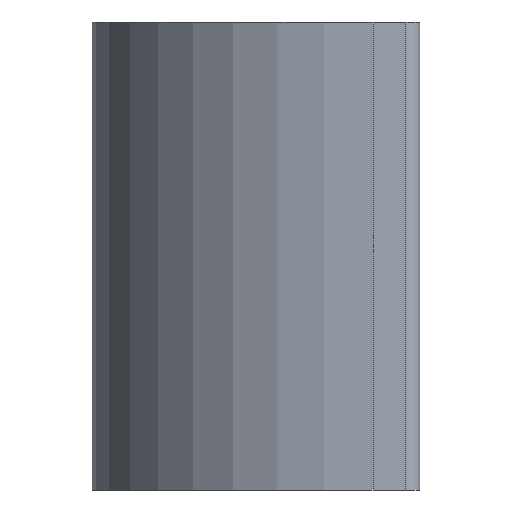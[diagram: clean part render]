
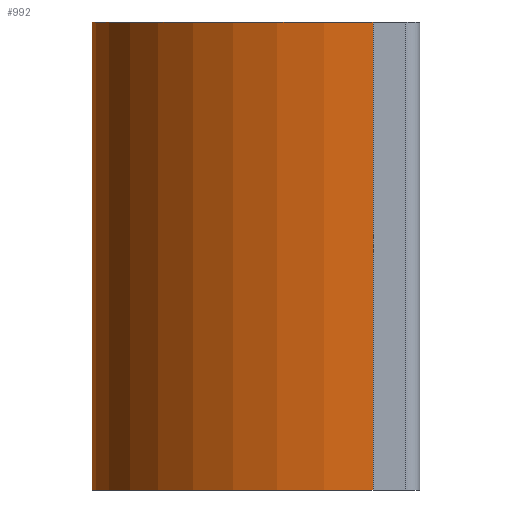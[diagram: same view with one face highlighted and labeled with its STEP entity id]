
A CAD part, left-side view. The second image highlights one B-rep face of the part: STEP entity #992.
In plain terms, the highlighted cylindrical face has radius 60 mm (diameter 120 mm), a partial arc.
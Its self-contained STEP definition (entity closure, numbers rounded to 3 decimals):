
#17 = FACE_OUTER_BOUND ( 'NONE', #758, .T. ) ;
#41 = DIRECTION ( 'NONE',  ( 0., 0., 1. ) ) ;
#60 = VERTEX_POINT ( 'NONE', #733 ) ;
#66 = CIRCLE ( 'NONE', #1218, 60. ) ;
#135 = CARTESIAN_POINT ( 'NONE',  ( -60., 0., 0. ) ) ;
#147 = DIRECTION ( 'NONE',  ( -1., 0., 0. ) ) ;
#170 = DIRECTION ( 'NONE',  ( 0., 0., -1. ) ) ;
#180 = AXIS2_PLACEMENT_3D ( 'NONE', #422, #239, #228 ) ;
#209 = LINE ( 'NONE', #1136, #452 ) ;
#222 = ORIENTED_EDGE ( 'NONE', *, *, #1197, .F. ) ;
#228 = DIRECTION ( 'NONE',  ( -1., 0., 0. ) ) ;
#239 = DIRECTION ( 'NONE',  ( 0., 0., -1. ) ) ;
#258 = CARTESIAN_POINT ( 'NONE',  ( 0., 60., 100. ) ) ;
#328 = DIRECTION ( 'NONE',  ( 0., 0., 1. ) ) ;
#329 = ORIENTED_EDGE ( 'NONE', *, *, #726, .T. ) ;
#397 = VERTEX_POINT ( 'NONE', #1032 ) ;
#422 = CARTESIAN_POINT ( 'NONE',  ( 0., 0., 100. ) ) ;
#424 = CARTESIAN_POINT ( 'NONE',  ( 0., 0., 0. ) ) ;
#432 = CIRCLE ( 'NONE', #440, 60. ) ;
#440 = AXIS2_PLACEMENT_3D ( 'NONE', #424, #41, #147 ) ;
#446 = ORIENTED_EDGE ( 'NONE', *, *, #630, .T. ) ;
#452 = VECTOR ( 'NONE', #1042, 1000. ) ;
#458 = LINE ( 'NONE', #258, #627 ) ;
#593 = ORIENTED_EDGE ( 'NONE', *, *, #958, .F. ) ;
#627 = VECTOR ( 'NONE', #170, 1000. ) ;
#630 = EDGE_CURVE ( 'NONE', #397, #969, #458, .T. ) ;
#703 = CARTESIAN_POINT ( 'NONE',  ( 0., 0., 100. ) ) ;
#726 = EDGE_CURVE ( 'NONE', #969, #1116, #432, .T. ) ;
#733 = CARTESIAN_POINT ( 'NONE',  ( -60., 0., 100. ) ) ;
#758 = EDGE_LOOP ( 'NONE', ( #329, #222, #593, #446 ) ) ;
#894 = DIRECTION ( 'NONE',  ( -1., 0., 0. ) ) ;
#958 = EDGE_CURVE ( 'NONE', #397, #60, #66, .T. ) ;
#969 = VERTEX_POINT ( 'NONE', #1081 ) ;
#992 = ADVANCED_FACE ( 'NONE', ( #17 ), #1052, .T. ) ;
#1032 = CARTESIAN_POINT ( 'NONE',  ( 0., 60., 100. ) ) ;
#1042 = DIRECTION ( 'NONE',  ( 0., 0., -1. ) ) ;
#1052 = CYLINDRICAL_SURFACE ( 'NONE', #180, 60. ) ;
#1081 = CARTESIAN_POINT ( 'NONE',  ( 0., 60., 0. ) ) ;
#1116 = VERTEX_POINT ( 'NONE', #135 ) ;
#1136 = CARTESIAN_POINT ( 'NONE',  ( -60., 0., 100. ) ) ;
#1197 = EDGE_CURVE ( 'NONE', #60, #1116, #209, .T. ) ;
#1218 = AXIS2_PLACEMENT_3D ( 'NONE', #703, #328, #894 ) ;
